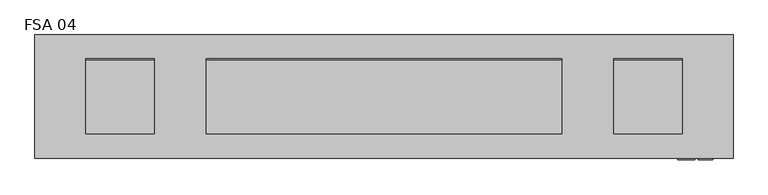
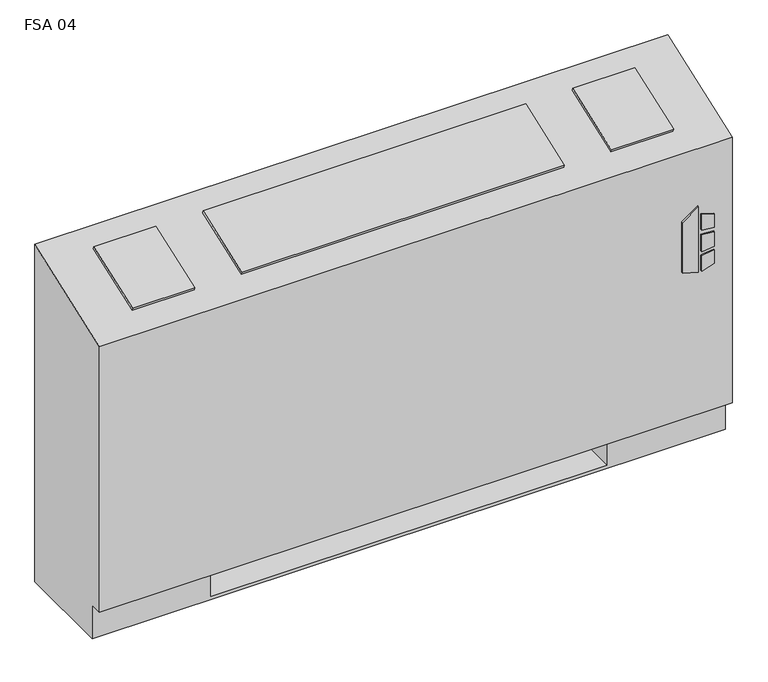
"""IFC4 building model written with IfcOpenShell, lengths in millimetres: proxy geometry, Vertical_Fan_Coil_Unit_-_FSA_-_IEC_-_2-Pipe_TS-FR_RH_2022 : FSA 04."""

import ifcopenshell
import ifcopenshell.guid

model = None  # the IFC model being written
_history = None  # IfcOwnerHistory: only IFC2X3 demands one
_inside = {}  # id of a spatial element -> (the spatial element, [elements in it])
_under = {}  # id of a project, library or spatial element -> (it, [spatial elements below it])
_declared = {}  # id of a project -> (the project, [libraries it declares])
_typed = {}  # id of a type object -> (the type object, [elements of that type])
_made_of = {}  # id of a material, layer set ... -> (it, [elements and type objects made of it])


def new_model(schema):
    """Start an empty IFC model of exactly this schema.

    Asked for "IFC4X3", IfcOpenShell would pick the latest addendum, in which some entities
    have other attributes; the version numbers below select the first issue.
    IFC2X3 requires an IfcOwnerHistory on every rooted entity: one is made here for all.
    """
    global model, _history
    if schema == "IFC4X3":
        model = ifcopenshell.file(schema_version=(4, 3, 0, 0))
    else:
        model = ifcopenshell.file(schema=schema)
    _inside.clear()
    _under.clear()
    _declared.clear()
    _typed.clear()
    _made_of.clear()
    _history = None
    if model.schema == "IFC2X3":
        org = make("IfcOrganization", Name="unknown")
        user = make(
            "IfcPersonAndOrganization",
            ThePerson=make("IfcPerson", FamilyName="unknown"),
            TheOrganization=org,
        )
        app = make(
            "IfcApplication",
            ApplicationDeveloper=org,
            Version="unknown",
            ApplicationFullName="unknown",
            ApplicationIdentifier="unknown",
        )
        _history = make(
            "IfcOwnerHistory",
            OwningUser=user,
            OwningApplication=app,
            ChangeAction="ADDED",
            CreationDate=0,
        )
    return model


def make(cls, **values):
    """One entity of the class cls with the attributes given. An attribute that is None is left unset."""
    return model.create_entity(
        cls, **{name: value for name, value in values.items() if value is not None}
    )


def rooted(cls, **values):
    """An entity with a GlobalId (a new one), such as an element, a storey or a relation."""
    return make(cls, GlobalId=ifcopenshell.guid.new(), OwnerHistory=_history, **values)


def si_unit(unit_type, name, prefix=None):
    """IfcSIUnit, for example si_unit("LENGTHUNIT", "METRE", prefix="MILLI")."""
    return make("IfcSIUnit", UnitType=unit_type, Prefix=prefix, Name=name)


def assignment(units):
    """IfcUnitAssignment: the units of a project."""
    return None if units is None else make("IfcUnitAssignment", Units=units)


def point(xyz):
    """IfcCartesianPoint."""
    return None if xyz is None else make("IfcCartesianPoint", Coordinates=xyz)


def direction(xyz):
    """IfcDirection."""
    return None if xyz is None else make("IfcDirection", DirectionRatios=xyz)


def frame(location, z_axis=None, x_axis=None):
    """IfcAxis2Placement3D, a coordinate frame: its origin and axes. An axis left out is left unset."""
    return make(
        "IfcAxis2Placement3D",
        Location=point(location),
        Axis=direction(z_axis),
        RefDirection=direction(x_axis),
    )


def frame_2d(location, x_axis=None):
    """IfcAxis2Placement2D, a coordinate frame in the plane: its origin and x axis."""
    return make(
        "IfcAxis2Placement2D", Location=point(location), RefDirection=direction(x_axis)
    )


def origin():
    """The frame at (0, 0, 0) with its axes left unset."""
    return frame((0.0, 0.0, 0.0))


def place(relative_to, where):
    """IfcLocalPlacement: puts the frame where relative to a parent placement (None: the world)."""
    return make(
        "IfcLocalPlacement", PlacementRelTo=relative_to, RelativePlacement=where
    )


def context(
    kind, dimensions, precision=None, world=None, true_north=None, identifier=None
):
    """IfcGeometricRepresentationContext, for example the 3D "Model" context."""
    return make(
        "IfcGeometricRepresentationContext",
        ContextIdentifier=identifier,
        ContextType=kind,
        CoordinateSpaceDimension=dimensions,
        Precision=precision,
        WorldCoordinateSystem=world,
        TrueNorth=true_north,
    )


def project(units=None, contexts=None):
    """IfcProject with its units and contexts."""
    return rooted(
        "IfcProject",
        Name="project",
        RepresentationContexts=contexts,
        UnitsInContext=assignment(units),
    )


def spatial(cls, under=None, at=None, **own):
    """A site, building, storey or space (cls), placed at a placement, below another one or the project."""
    s = rooted(cls, ObjectPlacement=at, **own)
    if under is not None:
        _under.setdefault(under.id(), (under, []))[1].append(s)
    return s


def polyline(points):
    """IfcPolyline through the points."""
    return make("IfcPolyline", Points=[point(p) for p in points])


def circle_curve(where, radius):
    """IfcCircle in the frame where."""
    return make("IfcCircle", Position=where, Radius=radius)


def trimmed(basis, trim1, trim2, sense, master):
    """IfcTrimmedCurve: the piece of a basis curve between two trims."""
    return make(
        "IfcTrimmedCurve",
        BasisCurve=basis,
        Trim1=trim1,
        Trim2=trim2,
        SenseAgreement=sense,
        MasterRepresentation=master,
    )


def segment(curve, same_sense, transition):
    """IfcCompositeCurveSegment."""
    return make(
        "IfcCompositeCurveSegment",
        Transition=transition,
        SameSense=same_sense,
        ParentCurve=curve,
    )


def composite_curve(segments, self_intersect=None):
    """IfcCompositeCurve: segments joined end to end."""
    return make("IfcCompositeCurve", Segments=segments, SelfIntersect=self_intersect)


def outline(outer, holes=None, kind="AREA"):
    """IfcArbitraryClosedProfileDef: a profile drawn as a closed curve; with holes, ...WithVoids."""
    if holes is None:
        return make("IfcArbitraryClosedProfileDef", ProfileType=kind, OuterCurve=outer)
    return make(
        "IfcArbitraryProfileDefWithVoids",
        ProfileType=kind,
        OuterCurve=outer,
        InnerCurves=holes,
    )


def extrude(swept, where, along, depth):
    """IfcExtrudedAreaSolid: the profile swept, set in the frame where, extruded along a direction by depth."""
    return make(
        "IfcExtrudedAreaSolid",
        SweptArea=swept,
        Position=where,
        ExtrudedDirection=direction(along),
        Depth=depth,
    )


def shape(context_of_items, identifier, shape_type, items):
    """IfcShapeRepresentation: the items that make up one representation, for example the "Body"."""
    return make(
        "IfcShapeRepresentation",
        ContextOfItems=context_of_items,
        RepresentationIdentifier=identifier,
        RepresentationType=shape_type,
        Items=items,
    )


def source(mapping_origin, context_of_items, identifier, shape_type, items):
    """IfcRepresentationMap: a shape defined once, which mapped items show again and again."""
    return make(
        "IfcRepresentationMap",
        MappingOrigin=mapping_origin,
        MappedRepresentation=shape(context_of_items, identifier, shape_type, items),
    )


def transform(
    local_origin,
    x_axis=None,
    y_axis=None,
    z_axis=None,
    scale=None,
    scale2=None,
    scale3=None,
    uniform=True,
):
    """IfcCartesianTransformationOperator3D, or its non-uniform kind. x_axis, y_axis, z_axis: its Axis1, 2, 3."""
    if uniform:
        return make(
            "IfcCartesianTransformationOperator3D",
            Axis1=direction(x_axis),
            Axis2=direction(y_axis),
            LocalOrigin=point(local_origin),
            Scale=scale,
            Axis3=direction(z_axis),
        )
    return make(
        "IfcCartesianTransformationOperator3DnonUniform",
        Axis1=direction(x_axis),
        Axis2=direction(y_axis),
        LocalOrigin=point(local_origin),
        Scale=scale,
        Axis3=direction(z_axis),
        Scale2=scale2,
        Scale3=scale3,
    )


def mapped(mapping_source, mapping_target):
    """IfcMappedItem: shows the shape of a source again, moved by a transform."""
    return make(
        "IfcMappedItem", MappingSource=mapping_source, MappingTarget=mapping_target
    )


def made_of(thing, what):
    """Note that an element or type object is made of a material, layer set ...; save() writes the relation."""
    if what is not None:
        _made_of.setdefault(what.id(), (what, []))[1].append(thing)
    return thing


def element(
    cls,
    number,
    at=None,
    inside=None,
    cuts=None,
    type_object=None,
    material=None,
    context=None,
    identifier="Body",
    shape_type=None,
    held_by="IfcProductDefinitionShape",
    body=None,
    shapes=None,
    **own,
):
    """One element of the class cls, such as IfcWall. Its Tag is "e" and its number.

    at: its placement. inside: the storey or other place that contains it. cuts: it is an
    opening in that element (IfcRelVoidsElement). A single representation is given by context,
    identifier, shape_type and body (its items); several are given by shapes. held_by: the class
    of the entity that holds the representations. save() writes the other relations.
    """
    e = rooted(cls, Tag="e%d" % number, ObjectPlacement=at, **own)
    if body is not None:
        shapes = [shape(context, identifier, shape_type, body)]
    if shapes is not None:
        e.Representation = make(held_by, Representations=shapes)
    if inside is not None:
        _inside.setdefault(inside.id(), (inside, []))[1].append(e)
    if cuts is not None:
        rooted(
            "IfcRelVoidsElement", RelatingBuildingElement=cuts, RelatedOpeningElement=e
        )
    if type_object is not None:
        _typed.setdefault(type_object.id(), (type_object, []))[1].append(e)
    return made_of(e, material)


def aggregate(whole, parts):
    """IfcRelAggregates: a whole, such as a stair, and the parts it consists of."""
    return rooted("IfcRelAggregates", RelatingObject=whole, RelatedObjects=parts)


def save(model, path):
    """Write the relations noted so far, then the file.

    IfcRelAggregates (storeys below a building ...), IfcRelContainedInSpatialStructure (elements
    in a storey), IfcRelDefinesByType, IfcRelAssociatesMaterial and IfcRelDeclares: one each for
    every whole, place, type object, material and project.
    """
    for whole, parts in _under.values():
        aggregate(whole, parts)
    for where, things in _inside.values():
        rooted(
            "IfcRelContainedInSpatialStructure",
            RelatedElements=things,
            RelatingStructure=where,
        )
    for kind, things in _typed.values():
        rooted("IfcRelDefinesByType", RelatedObjects=things, RelatingType=kind)
    for what, things in _made_of.values():
        rooted("IfcRelAssociatesMaterial", RelatedObjects=things, RelatingMaterial=what)
    for by, libraries in _declared.values():
        rooted("IfcRelDeclares", RelatingContext=by, RelatedDefinitions=libraries)
    model.write(path)


def plane_surface(at):
    """IfcPlane: the flat surface through the origin of the frame at, square to its z axis."""
    return make("IfcPlane", Position=at)


def revolved_surface(curve, axis_point, axis_direction):
    """IfcSurfaceOfRevolution: the curve turned about the line through axis_point along axis_direction."""
    return make(
        "IfcSurfaceOfRevolution",
        SweptCurve=make("IfcArbitraryOpenProfileDef", ProfileType="CURVE", Curve=curve),
        AxisPosition=make("IfcAxis1Placement", Location=point(axis_point), Axis=direction(axis_direction)),
    )


def advanced_brep(points, edges, surfaces, faces):
    """IfcAdvancedBrep: a solid bounded by faces that lie on surfaces and meet in shared edges.

    An edge is (start, end): straight between two places in points (the first is 0);
    or (start, end, curve); or (start, end, curve, False) where it runs against its curve.
    A face is (place in surfaces, loops), or (place, loops, False) where it looks against
    its surface's normal. A loop lists edges by number (the first is 1), with a minus sign
    where the edge is run from its end to its start. The first loop is the outer one.
    """
    corners = [point(p) for p in points]
    vertices = [make("IfcVertexPoint", VertexGeometry=c) for c in corners]
    made = []
    for start, end, *more in edges:
        made.append(
            make(
                "IfcEdgeCurve",
                EdgeStart=vertices[start],
                EdgeEnd=vertices[end],
                EdgeGeometry=more[0] if more else make("IfcPolyline", Points=[corners[start], corners[end]]),
                SameSense=more[1] if len(more) > 1 else True,
            )
        )
    hull = []
    for where, loops, *sense in faces:
        bounds = []
        for j, loop in enumerate(loops):
            ring = [make("IfcOrientedEdge", EdgeElement=made[abs(k) - 1], Orientation=k > 0) for k in loop]
            bounds.append(
                make(
                    "IfcFaceOuterBound" if j == 0 else "IfcFaceBound",
                    Bound=make("IfcEdgeLoop", EdgeList=ring),
                    Orientation=True,
                )
            )
        hull.append(make("IfcAdvancedFace", Bounds=bounds, FaceSurface=surfaces[where], SameSense=sense[0] if sense else True))
    return make("IfcAdvancedBrep", Outer=make("IfcClosedShell", CfsFaces=hull))


def fsa_04_fa0adc46(model_context):
    return source(origin(), model_context, "Body", "SolidModel", [
        extrude(outline(polyline([(391.6086829, 696.9868862), (381.6606126, 729.1602728), (523.831537, 729.1602728), (500.8095309, 696.9868862), (391.6086829, 696.9868862)])), frame((0.0, 12.7, 0.0), z_axis=(0.0, 1.0, 0.0), x_axis=(0.0, 0.0, 1.0)), (0.0, 0.0, 1.0), 3.175),
        extrude(outline(polyline([(470.6079683, 735.9186058), (467.4055757, 762.0), (496.6344168, 762.0), (504.6988318, 735.9186058), (470.6079683, 735.9186058)])), frame((0.0, 12.7, 0.0), z_axis=(0.0, 1.0, 0.0), x_axis=(0.0, 0.0, 1.0)), (0.0, 0.0, 1.0), 3.175),
        extrude(outline(polyline([(418.7444414, 762.0), (415.0789404, 735.9186058), (381.6606126, 735.9186058), (390.2948498, 762.0), (418.7444414, 762.0)])), frame((0.0, 12.7, 0.0), z_axis=(0.0, 1.0, 0.0), x_axis=(0.0, 0.0, 1.0)), (0.0, 0.0, 1.0), 3.175),
        extrude(outline(polyline([(458.0596028, 762.0), (460.3414292, 735.9186058), (424.4038806, 735.9186058), (427.1451456, 762.0), (458.0596028, 762.0)])), frame((0.0, 12.7, 0.0), z_axis=(0.0, 1.0, 0.0), x_axis=(0.0, 0.0, 1.0)), (0.0, 0.0, 1.0), 3.175),
        extrude(outline(polyline([(-374.65, 81.534), (-374.65, 223.266), (-254.0, 223.266), (-254.0, 81.534), (-374.65, 81.534)])), frame((0.0, 0.0, 327.025), z_axis=(0.0, 0.0, 1.0), x_axis=(1.0, 0.0, 0.0)), (0.0, 0.0, 1.0), 260.35),
        extrude(outline(composite_curve([segment(trimmed(circle_curve(frame_2d((622.3, 130.175)), 9.525), [point((612.775, 130.175))], [point((631.825, 130.175))], False, "CARTESIAN"), True, "CONTINUOUS"), segment(trimmed(circle_curve(frame_2d((622.3, 130.175)), 9.525), [point((631.825, 130.175))], [point((612.775, 130.175))], False, "CARTESIAN"), True, "CONTINUOUS")], self_intersect=False)), frame((0.0, 0.0, 101.6), z_axis=(0.0, 0.0, 1.0), x_axis=(1.0, 0.0, 0.0)), (0.0, 0.0, 1.0), 25.4),
        extrude(outline(polyline([(723.9, 196.85), (723.9, 63.5), (558.8, 63.5), (558.8, 196.85), (723.9, 196.85)])), frame((0.0, 0.0, 127.0), z_axis=(0.0, 0.0, 1.0), x_axis=(1.0, 0.0, 0.0)), (0.0, 0.0, 1.0), 50.8),
        extrude(outline(polyline([(0.0, -146.0500001), (0.0, 0.0), (127.0, 0.0), (127.0, -146.0500001), (0.0, -146.0500001)])), frame((-401.193, 200.4217127, 714.3418685), z_axis=(0.0, -0.3396444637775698, 0.9405538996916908), x_axis=(1.0, 0.0, 0.0)), (0.0, 0.0, 1.0), 6.35),
        extrude(outline(polyline([(0.0, -146.0500001), (0.0, 0.0), (660.4, 0.0), (660.4, -146.0500001), (0.0, -146.0500001)])), frame((482.6, 63.0538156, 664.7367945), z_axis=(0.0, -0.33964446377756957, 0.9405538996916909), x_axis=(-1.0, 0.0, 0.0)), (0.0, 0.0, 1.0), 6.35),
        extrude(outline(polyline([(0.0, -146.0500001), (0.0, 0.0), (127.0, 0.0), (127.0, -146.0500001), (0.0, -146.0500001)])), frame((705.993, 63.0538156, 664.7367945), z_axis=(0.0, -0.3396444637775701, 0.9405538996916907), x_axis=(-1.0, 0.0, 0.0)), (0.0, 0.0, 1.0), 6.35),
        extrude(outline(composite_curve([segment(trimmed(circle_curve(frame_2d((109.347, 456.819)), 7.9375), [point((109.347, 464.7565))], [point((109.347, 448.8815))], False, "CARTESIAN"), True, "CONTINUOUS"), segment(trimmed(circle_curve(frame_2d((109.347, 456.819)), 7.9375), [point((109.347, 448.8815))], [point((109.347, 464.7565))], False, "CARTESIAN"), True, "CONTINUOUS")], self_intersect=False)), frame((558.8, 0.0, 0.0), z_axis=(1.0, 0.0, 0.0), x_axis=(0.0, 1.0, 0.0)), (0.0, 0.0, 1.0), 50.8),
        extrude(outline(composite_curve([segment(trimmed(circle_curve(frame_2d((157.4546, 429.4632)), 7.9375), [point((157.4546, 437.4007))], [point((157.4546, 421.5257))], False, "CARTESIAN"), True, "CONTINUOUS"), segment(trimmed(circle_curve(frame_2d((157.4546, 429.4632)), 7.9375), [point((157.4546, 421.5257))], [point((157.4546, 437.4007))], False, "CARTESIAN"), True, "CONTINUOUS")], self_intersect=False)), frame((558.8, 0.0, 0.0), z_axis=(1.0, 0.0, 0.0), x_axis=(0.0, 1.0, 0.0)), (0.0, 0.0, 1.0), 50.8),
        advanced_brep(
        [(-495.3, 244.475, 0.0), (800.1, 244.475, 0.0), (800.1, 41.275, 0.0), (-495.3, 41.275, 0.0), (-495.3, 244.475, 730.25), (800.1, 244.475, 730.25), (558.8, 244.475, 73.025), (787.4, 244.475, 73.025), (787.4, 244.475, 654.05), (558.8, 244.475, 654.05), (558.8, 244.475, 414.8650565), (587.375, 244.475, 414.8650565), (587.375, 244.475, 385.2349435), (558.8, 244.475, 385.2349435), (558.8, 244.475, 287.3375), (587.375, 244.475, 287.3375), (587.375, 244.475, 258.7625), (558.8, 244.475, 258.7625), (558.8, 244.475, 141.2875), (587.375, 244.475, 141.2875), (587.375, 244.475, 112.7125), (558.8, 244.475, 112.7125), (-254.0, 244.475, 654.05), (-482.6, 244.475, 654.05), (-482.6, 244.475, 73.025), (-254.0, 244.475, 73.025), (-254.0, 244.475, 112.7125), (-282.575, 244.475, 112.7125), (-282.575, 244.475, 141.2875), (-254.0, 244.475, 141.2875), (-254.0, 244.475, 258.7625), (-282.575, 244.475, 258.7625), (-282.575, 244.475, 287.3375), (-254.0, 244.475, 287.3375), (-254.0, 244.475, 385.2349435), (-282.575, 244.475, 385.2349435), (-282.575, 244.475, 414.8650565), (-254.0, 244.475, 414.8650565), (577.0626, 244.475, 127.0), (565.9374, 244.475, 127.0), (577.0626, 244.475, 400.05), (565.9374, 244.475, 400.05), (577.0626, 244.475, 273.05), (565.9374, 244.475, 273.05), (-261.1374, 244.475, 127.0), (-272.2626, 244.475, 127.0), (-261.1374, 244.475, 273.05), (-272.2626, 244.475, 273.05), (-261.1374, 244.475, 400.05), (-272.2626, 244.475, 400.05), (-495.3, 41.275, 73.025), (-495.3, 15.875, 73.025), (-495.3, 15.875, 647.7), (800.1, 15.875, 73.025), (800.1, 15.875, 647.7), (800.1, 41.275, 73.025), (-254.0, 41.275, 73.025), (-254.0, 225.425, 73.025), (558.8, 225.425, 73.025), (558.8, 41.275, 73.025), (558.8, 41.275, 6.35), (-254.0, 41.275, 6.35), (558.8, 41.275, 654.05), (787.4, 41.275, 654.05), (787.4, 41.275, 73.025), (558.8, 41.275, 73.025), (-254.0, 41.275, 654.05), (-254.0, 41.275, 73.025), (-482.6, 41.275, 73.025), (-482.6, 41.275, 654.05), (558.8, 225.425, 73.025), (558.8, 238.125, 112.7125), (558.8, 238.125, 141.2875), (558.8, 238.125, 258.7625), (558.8, 238.125, 287.3375), (558.8, 238.125, 385.2349435), (558.8, 238.125, 414.8650565), (-254.0, 225.425, 73.025), (-254.0, 238.125, 414.8650565), (-254.0, 238.125, 385.2349435), (-254.0, 238.125, 287.3375), (-254.0, 238.125, 258.7625), (-254.0, 238.125, 141.2875), (-254.0, 238.125, 112.7125), (-254.0, 225.425, 6.35), (558.8, 225.425, 6.35), (587.375, 238.125, 112.7125), (587.375, 238.125, 141.2875), (565.9374, 238.125, 127.0), (577.0626, 238.125, 127.0), (587.375, 238.125, 258.7625), (587.375, 238.125, 287.3375), (565.9374, 238.125, 273.05), (577.0626, 238.125, 273.05), (587.375, 238.125, 385.2349435), (587.375, 238.125, 414.8650565), (565.9374, 238.125, 400.05), (577.0626, 238.125, 400.05), (-282.575, 238.125, 141.2875), (-282.575, 238.125, 112.7125), (-272.2626, 238.125, 127.0), (-261.1374, 238.125, 127.0), (-282.575, 238.125, 287.3375), (-282.575, 238.125, 258.7625), (-272.2626, 238.125, 273.05), (-261.1374, 238.125, 273.05), (-282.575, 238.125, 414.8650565), (-282.575, 238.125, 385.2349435), (-272.2626, 238.125, 400.05), (-261.1374, 238.125, 400.05)],
        [
            (0, 1),
            (1, 2),
            (2, 3),
            (3, 0),
            (0, 4),
            (4, 5),
            (5, 1),
            (6, 7),
            (7, 8),
            (8, 9),
            (9, 10),
            (10, 11),
            (11, 12),
            (12, 13),
            (13, 14),
            (14, 15),
            (15, 16),
            (16, 17),
            (17, 18),
            (18, 19),
            (19, 20),
            (20, 21),
            (21, 6),
            (22, 23),
            (23, 24),
            (24, 25),
            (25, 26),
            (26, 27),
            (27, 28),
            (28, 29),
            (29, 30),
            (30, 31),
            (31, 32),
            (32, 33),
            (33, 34),
            (34, 35),
            (35, 36),
            (36, 37),
            (37, 22),
            (38, 39, circle_curve(frame((571.5, 244.475, 127.0), z_axis=(0.0, -1.0, 0.0), x_axis=(-1.0, 0.0, 0.0)), 5.5626)),
            (39, 38, circle_curve(frame((571.5, 244.475, 127.0), z_axis=(0.0, -1.0, 0.0), x_axis=(-1.0, 0.0, 0.0)), 5.5626)),
            (40, 41, circle_curve(frame((571.5, 244.475, 400.05), z_axis=(0.0, -1.0, 0.0), x_axis=(-1.0, 0.0, 0.0)), 5.5626)),
            (41, 40, circle_curve(frame((571.5, 244.475, 400.05), z_axis=(0.0, -1.0, 0.0), x_axis=(-1.0, 0.0, 0.0)), 5.5626)),
            (42, 43, circle_curve(frame((571.5, 244.475, 273.05), z_axis=(0.0, -1.0, 0.0), x_axis=(-1.0, 0.0, 0.0)), 5.5626)),
            (43, 42, circle_curve(frame((571.5, 244.475, 273.05), z_axis=(0.0, -1.0, 0.0), x_axis=(-1.0, 0.0, 0.0)), 5.5626)),
            (44, 45, circle_curve(frame((-266.7, 244.475, 127.0), z_axis=(0.0, -1.0, 0.0), x_axis=(-1.0, 0.0, 0.0)), 5.5626)),
            (45, 44, circle_curve(frame((-266.7, 244.475, 127.0), z_axis=(0.0, -1.0, 0.0), x_axis=(-1.0, 0.0, 0.0)), 5.5626)),
            (46, 47, circle_curve(frame((-266.7, 244.475, 273.05), z_axis=(0.0, -1.0, 0.0), x_axis=(-1.0, 0.0, 0.0)), 5.5626)),
            (47, 46, circle_curve(frame((-266.7, 244.475, 273.05), z_axis=(0.0, -1.0, 0.0), x_axis=(-1.0, 0.0, 0.0)), 5.5626)),
            (48, 49, circle_curve(frame((-266.7, 244.475, 400.05), z_axis=(0.0, -1.0, 0.0), x_axis=(-1.0, 0.0, 0.0)), 5.5626)),
            (49, 48, circle_curve(frame((-266.7, 244.475, 400.05), z_axis=(0.0, -1.0, 0.0), x_axis=(-1.0, 0.0, 0.0)), 5.5626)),
            (3, 50),
            (50, 51),
            (51, 52),
            (52, 4),
            (51, 53),
            (53, 54),
            (54, 52),
            (5, 54),
            (53, 55),
            (55, 2),
            (50, 56),
            (56, 57),
            (57, 58),
            (58, 59),
            (59, 55),
            (59, 60),
            (60, 61),
            (61, 56),
            (62, 63),
            (63, 64),
            (64, 65),
            (65, 62),
            (66, 67),
            (67, 68),
            (68, 69),
            (69, 66),
            (65, 70),
            (70, 6),
            (21, 71),
            (71, 72),
            (72, 18),
            (17, 73),
            (73, 74),
            (74, 14),
            (13, 75),
            (75, 76),
            (76, 10),
            (9, 62),
            (64, 7),
            (63, 8),
            (69, 23),
            (22, 66),
            (68, 24),
            (67, 77),
            (77, 25),
            (37, 78),
            (78, 79),
            (79, 34),
            (33, 80),
            (80, 81),
            (81, 30),
            (29, 82),
            (82, 83),
            (83, 26),
            (57, 84),
            (84, 85),
            (85, 58),
            (85, 60),
            (84, 61),
            (71, 86),
            (86, 87),
            (87, 72),
            (88, 89, circle_curve(frame((571.5, 238.125, 127.0), z_axis=(0.0, 1.0, 0.0), x_axis=(-1.0, 0.0, 0.0)), 5.5626)),
            (89, 88, circle_curve(frame((571.5, 238.125, 127.0), z_axis=(0.0, 1.0, 0.0), x_axis=(-1.0, 0.0, 0.0)), 5.5626)),
            (73, 90),
            (90, 91),
            (91, 74),
            (92, 93, circle_curve(frame((571.5, 238.125, 273.05), z_axis=(0.0, 1.0, 0.0), x_axis=(-1.0, 0.0, 0.0)), 5.5626)),
            (93, 92, circle_curve(frame((571.5, 238.125, 273.05), z_axis=(0.0, 1.0, 0.0), x_axis=(-1.0, 0.0, 0.0)), 5.5626)),
            (75, 94),
            (94, 95),
            (95, 76),
            (96, 97, circle_curve(frame((571.5, 238.125, 400.05), z_axis=(0.0, 1.0, 0.0), x_axis=(-1.0, 0.0, 0.0)), 5.5626)),
            (97, 96, circle_curve(frame((571.5, 238.125, 400.05), z_axis=(0.0, 1.0, 0.0), x_axis=(-1.0, 0.0, 0.0)), 5.5626)),
            (98, 99),
            (99, 83),
            (82, 98),
            (100, 101, circle_curve(frame((-266.7, 238.125, 127.0), z_axis=(0.0, 1.0, 0.0), x_axis=(-1.0, 0.0, 0.0)), 5.5626)),
            (101, 100, circle_curve(frame((-266.7, 238.125, 127.0), z_axis=(0.0, 1.0, 0.0), x_axis=(-1.0, 0.0, 0.0)), 5.5626)),
            (102, 103),
            (103, 81),
            (80, 102),
            (104, 105, circle_curve(frame((-266.7, 238.125, 273.05), z_axis=(0.0, 1.0, 0.0), x_axis=(-1.0, 0.0, 0.0)), 5.5626)),
            (105, 104, circle_curve(frame((-266.7, 238.125, 273.05), z_axis=(0.0, 1.0, 0.0), x_axis=(-1.0, 0.0, 0.0)), 5.5626)),
            (106, 107),
            (107, 79),
            (78, 106),
            (108, 109, circle_curve(frame((-266.7, 238.125, 400.05), z_axis=(0.0, 1.0, 0.0), x_axis=(-1.0, 0.0, 0.0)), 5.5626)),
            (109, 108, circle_curve(frame((-266.7, 238.125, 400.05), z_axis=(0.0, 1.0, 0.0), x_axis=(-1.0, 0.0, 0.0)), 5.5626)),
            (87, 19),
            (86, 20),
            (91, 15),
            (90, 16),
            (95, 11),
            (94, 12),
            (28, 98),
            (99, 27),
            (32, 102),
            (103, 31),
            (36, 106),
            (107, 35),
            (88, 39),
            (38, 89),
            (96, 41),
            (40, 97),
            (92, 43),
            (42, 93),
            (100, 45),
            (44, 101),
            (104, 47),
            (46, 105),
            (108, 49),
            (48, 109),
        ],
        [
            plane_surface(frame((-495.3, 244.475, 0.0), z_axis=(0.0, 0.0, -1.0), x_axis=(1.0, 0.0, 0.0))),
            plane_surface(frame((800.1, 244.475, 730.25), z_axis=(0.0, 1.0, 0.0), x_axis=(0.0, 0.0, -1.0))),
            plane_surface(frame((-495.3, 244.475, 730.25), z_axis=(-1.0, 0.0, 0.0), x_axis=(0.0, 0.0, -1.0))),
            plane_surface(frame((-495.3, 15.875, 730.25), z_axis=(0.0, -1.0, 0.0), x_axis=(0.0, 0.0, -1.0))),
            plane_surface(frame((800.1, 15.875, 730.25), z_axis=(1.0, 0.0, 0.0), x_axis=(0.0, 0.0, -1.0))),
            plane_surface(frame((-495.3, 15.875, 73.025), z_axis=(0.0, 0.0, -1.0), x_axis=(1.0, 0.0, 0.0))),
            plane_surface(frame((-495.3, 41.275, 73.025), z_axis=(0.0, -1.0, 0.0), x_axis=(1.0, 0.0, 0.0))),
            plane_surface(frame((558.8, 41.275, 654.05), z_axis=(0.0, 1.0, 0.0), x_axis=(0.0, 0.0, -1.0))),
            plane_surface(frame((558.8, 41.275, 654.05), z_axis=(1.0, 0.0, 0.0), x_axis=(0.0, 1.0, 0.0))),
            plane_surface(frame((558.8, 41.275, 73.025), z_axis=(0.0, 0.0, 1.0), x_axis=(0.0, 1.0, 0.0))),
            plane_surface(frame((787.4, 41.275, 73.025), z_axis=(-1.0, 0.0, 0.0), x_axis=(0.0, 1.0, 0.0))),
            plane_surface(frame((787.4, 41.275, 654.05), z_axis=(0.0, 0.0, -1.0), x_axis=(0.0, 1.0, 0.0))),
            plane_surface(frame((-254.0, 41.275, 654.05), z_axis=(0.0, 0.0, -1.0), x_axis=(0.0, 1.0, 0.0))),
            plane_surface(frame((-482.6, 41.275, 654.05), z_axis=(1.0, 0.0, 0.0), x_axis=(0.0, 1.0, 0.0))),
            plane_surface(frame((-482.6, 41.275, 73.025), z_axis=(0.0, 0.0, 1.0), x_axis=(0.0, 1.0, 0.0))),
            plane_surface(frame((-254.0, 41.275, 73.025), z_axis=(-1.0, 0.0, 0.0), x_axis=(0.0, 1.0, 0.0))),
            plane_surface(frame((558.8, 225.425, 73.025), z_axis=(0.0, -1.0, 0.0), x_axis=(0.0, 0.0, -1.0))),
            plane_surface(frame((558.8, 225.425, 73.025), z_axis=(-1.0, 0.0, 0.0), x_axis=(0.0, -1.0, 0.0))),
            plane_surface(frame((558.8, 225.425, 6.35), z_axis=(0.0, 0.0, 1.0), x_axis=(0.0, -1.0, 0.0))),
            plane_surface(frame((-254.0, 225.425, 6.35), z_axis=(1.0, 0.0, 0.0), x_axis=(0.0, -1.0, 0.0))),
            plane_surface(frame((587.375, 238.125, 141.2875), z_axis=(0.0, -1.0, 0.0), x_axis=(-1.0, 0.0, 0.0))),
            plane_surface(frame((558.8, 244.475, 141.2875), z_axis=(0.0, 0.0, 1.0), x_axis=(0.0, -1.0, 0.0))),
            plane_surface(frame((587.375, 244.475, 141.2875), z_axis=(1.0, 0.0, 0.0), x_axis=(0.0, -1.0, 0.0))),
            plane_surface(frame((587.375, 244.475, 112.7125), z_axis=(0.0, 0.0, -1.0), x_axis=(0.0, -1.0, 0.0))),
            plane_surface(frame((558.8, 244.475, 287.3375), z_axis=(0.0, 0.0, 1.0), x_axis=(0.0, -1.0, 0.0))),
            plane_surface(frame((587.375, 244.475, 287.3375), z_axis=(1.0, 0.0, 0.0), x_axis=(0.0, -1.0, 0.0))),
            plane_surface(frame((587.375, 244.475, 258.7625), z_axis=(0.0, 0.0, -1.0), x_axis=(0.0, -1.0, 0.0))),
            plane_surface(frame((558.8, 244.475, 414.8650565), z_axis=(0.0, 0.0, 1.0), x_axis=(0.0, -1.0, 0.0))),
            plane_surface(frame((587.375, 244.475, 414.8650565), z_axis=(1.0, 0.0, 0.0), x_axis=(0.0, -1.0, 0.0))),
            plane_surface(frame((587.375, 244.475, 385.2349435), z_axis=(0.0, 0.0, -1.0), x_axis=(0.0, -1.0, 0.0))),
            plane_surface(frame((-282.575, 244.475, 141.2875), z_axis=(0.0, 0.0, 1.0), x_axis=(0.0, -1.0, 0.0))),
            plane_surface(frame((-254.0, 244.475, 112.7125), z_axis=(0.0, 0.0, -1.0), x_axis=(0.0, -1.0, 0.0))),
            plane_surface(frame((-282.575, 244.475, 112.7125), z_axis=(-1.0, 0.0, 0.0), x_axis=(0.0, -1.0, 0.0))),
            plane_surface(frame((-282.575, 244.475, 287.3375), z_axis=(0.0, 0.0, 1.0), x_axis=(0.0, -1.0, 0.0))),
            plane_surface(frame((-254.0, 244.475, 258.7625), z_axis=(0.0, 0.0, -1.0), x_axis=(0.0, -1.0, 0.0))),
            plane_surface(frame((-282.575, 244.475, 258.7625), z_axis=(-1.0, 0.0, 0.0), x_axis=(0.0, -1.0, 0.0))),
            plane_surface(frame((-282.575, 244.475, 414.8650565), z_axis=(0.0, 0.0, 1.0), x_axis=(0.0, -1.0, 0.0))),
            plane_surface(frame((-254.0, 244.475, 385.2349435), z_axis=(0.0, 0.0, -1.0), x_axis=(0.0, -1.0, 0.0))),
            plane_surface(frame((-282.575, 244.475, 385.2349435), z_axis=(-1.0, 0.0, 0.0), x_axis=(0.0, -1.0, 0.0))),
            revolved_surface(polyline([(565.9374, 238.125, 127.0), (565.9374, 244.475, 127.0)]), (571.5, 244.475, 127.0), (0.0, -1.0, 0.0)),
            revolved_surface(polyline([(565.9374, 238.125, 400.05), (565.9374, 244.475, 400.05)]), (571.5, 244.475, 400.05), (0.0, -1.0, 0.0)),
            revolved_surface(polyline([(565.9374, 238.125, 273.05), (565.9374, 244.475, 273.05)]), (571.5, 244.475, 273.05), (0.0, -1.0, 0.0)),
            revolved_surface(polyline([(-272.26259999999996, 238.125, 127.0), (-272.26259999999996, 244.475, 127.0)]), (-266.7, 244.475, 127.0), (0.0, -1.0, 0.0)),
            revolved_surface(polyline([(-272.26259999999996, 238.125, 273.05), (-272.26259999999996, 244.475, 273.05)]), (-266.7, 244.475, 273.05), (0.0, -1.0, 0.0)),
            revolved_surface(polyline([(-272.26259999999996, 238.125, 400.05), (-272.26259999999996, 244.475, 400.05)]), (-266.7, 244.475, 400.05), (0.0, -1.0, 0.0)),
            plane_surface(frame((-495.3, 244.475, 730.25), z_axis=(0.0, -0.33964446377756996, 0.9405538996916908), x_axis=(1.0, 0.0, 0.0))),
        ],
        [
            (0, [[1, 2, 3, 4]]),
            (1, [[-1, 5, 6, 7], [8, 9, 10, 11, 12, 13, 14, 15, 16, 17, 18, 19, 20, 21, 22, 23], [24, 25, 26, 27, 28, 29, 30, 31, 32, 33, 34, 35, 36, 37, 38, 39], [40, 41], [42, 43], [44, 45], [46, 47], [48, 49], [50, 51]]),
            (2, [[-5, -4, 52, 53, 54, 55]]),
            (3, [[56, 57, 58, -54]]),
            (4, [[-7, 59, -57, 60, 61, -2]]),
            (5, [[-53, 62, 63, 64, 65, 66, -60, -56]]),
            (6, [[-3, -61, -66, 67, 68, 69, -62, -52]]),
            (7, [[70, 71, 72, 73]]),
            (7, [[74, 75, 76, 77]]),
            (8, [[-73, 78, 79, -23, 80, 81, 82, -19, 83, 84, 85, -15, 86, 87, 88, -11, 89]]),
            (9, [[-72, 90, -8, -79, -78]]),
            (10, [[-71, 91, -9, -90]]),
            (11, [[-70, -89, -10, -91]]),
            (12, [[-77, 92, -24, 93]]),
            (13, [[-76, 94, -25, -92]]),
            (14, [[-75, 95, 96, -26, -94]]),
            (15, [[-74, -93, -39, 97, 98, 99, -35, 100, 101, 102, -31, 103, 104, 105, -27, -96, -95]]),
            (16, [[-64, 106, 107, 108]]),
            (17, [[-108, 109, -67, -65]]),
            (18, [[-107, 110, -68, -109]]),
            (19, [[-106, -63, -69, -110]]),
            (20, [[111, 112, 113, -81], [114, 115]]),
            (20, [[116, 117, 118, -84], [119, 120]]),
            (20, [[121, 122, 123, -87], [124, 125]]),
            (20, [[126, 127, -104, 128], [129, 130]]),
            (20, [[131, 132, -101, 133], [134, 135]]),
            (20, [[136, 137, -98, 138], [139, 140]]),
            (21, [[-113, 141, -20, -82]]),
            (22, [[-112, 142, -21, -141]]),
            (23, [[-111, -80, -22, -142]]),
            (24, [[-118, 143, -16, -85]]),
            (25, [[-117, 144, -17, -143]]),
            (26, [[-116, -83, -18, -144]]),
            (27, [[-123, 145, -12, -88]]),
            (28, [[-122, 146, -13, -145]]),
            (29, [[-121, -86, -14, -146]]),
            (30, [[-128, -103, -30, 147]]),
            (31, [[-127, 148, -28, -105]]),
            (32, [[-126, -147, -29, -148]]),
            (33, [[-133, -100, -34, 149]]),
            (34, [[-132, 150, -32, -102]]),
            (35, [[-131, -149, -33, -150]]),
            (36, [[-138, -97, -38, 151]]),
            (37, [[-137, 152, -36, -99]]),
            (38, [[-136, -151, -37, -152]]),
            (39, [[153, -40, 154, -114]]),
            (39, [[-153, -115, -154, -41]]),
            (40, [[155, -42, 156, -124]]),
            (40, [[-155, -125, -156, -43]]),
            (41, [[157, -44, 158, -119]]),
            (41, [[-157, -120, -158, -45]]),
            (42, [[159, -46, 160, -129]]),
            (42, [[-159, -130, -160, -47]]),
            (43, [[161, -48, 162, -134]]),
            (43, [[-161, -135, -162, -49]]),
            (44, [[163, -50, 164, -139]]),
            (44, [[-163, -140, -164, -51]]),
            (45, [[-6, -55, -58, -59]]),
        ],
    ),
    ])


if __name__ == "__main__":
    model = new_model("IFC4")
    model_context = context("Model", 3, world=origin())
    ifc_project = project(units=[si_unit("LENGTHUNIT", "METRE", prefix="MILLI")], contexts=[model_context])
    site = spatial("IfcSite", under=ifc_project)
    building = spatial("IfcBuilding", under=site)
    placement = place(None, origin())
    fsa_04_shape = fsa_04_fa0adc46(model_context)
    element("IfcBuildingElementProxy", 1, Name="Vertical_Fan_Coil_Unit_-_FSA_-_IEC_-_2-Pipe_TS-FR_RH_2022 : FSA 04", ObjectType="Vertical_Fan_Coil_Unit_-_FSA_-_IEC_-_2-Pipe_TS-FR_RH_2022 : FSA 04", at=placement, inside=building, context=model_context, shape_type="MappedRepresentation", body=[
        mapped(fsa_04_shape, transform((0.0, 0.0, 0.0), x_axis=(1.0, 0.0, 0.0), y_axis=(0.0, 1.0, 0.0), z_axis=(0.0, 0.0, 1.0))),
    ])
    save(model, "model.ifc")
